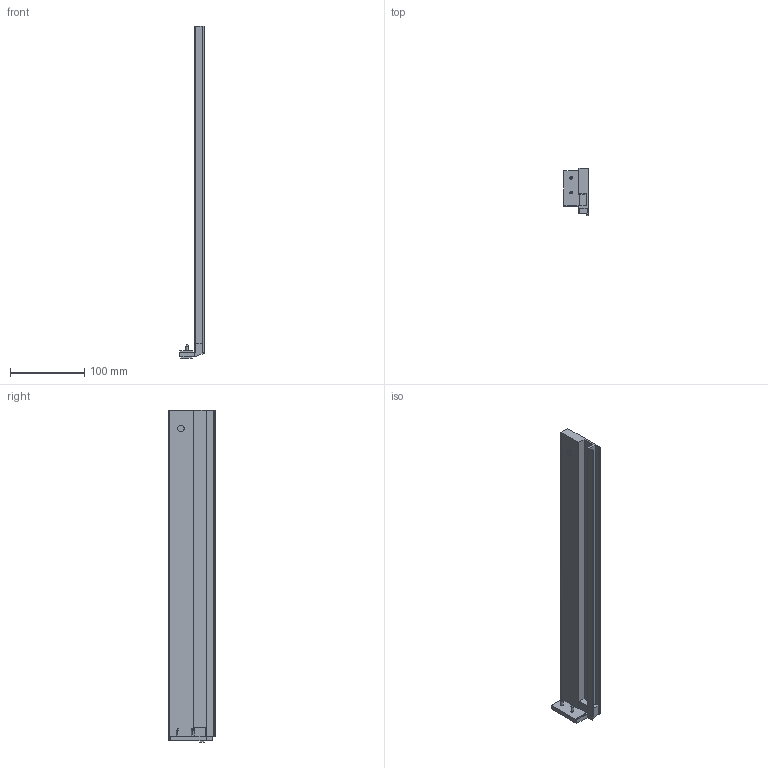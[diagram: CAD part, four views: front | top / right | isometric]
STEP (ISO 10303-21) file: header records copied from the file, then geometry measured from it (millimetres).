
FILE_DESCRIPTION (( 'STEP AP214' ), '1' );
FILE_NAME ('Vionaro_Alu-Zarge_H63_V1_NL450_RE.STEP', '2014-08-22T09:39:15', ( '' ), ( '' ), 'SwSTEP 2.0', 'SolidWorks 2013', '' );
FILE_SCHEMA (( 'AUTOMOTIVE_DESIGN' ));
Length unit declared in the file: millimetre
Products named in the file (1): Vionaro_Alu-Zarge_H63_V1_NL450_RE
Bounding box: 33 x 63 x 447.9 mm (x, y, z)
Volume: 252981 mm3; surface area: 87822.6 mm2
Topology: 1 solids, 1 shells, 71 faces, 185 edges, 121 vertices
Faces by surface type: plane 59, cylinder 8, cone 4
Entity records: 2178 total; most frequent: CARTESIAN_POINT 378, ORIENTED_EDGE 370, DIRECTION 350, EDGE_CURVE 185, LINE 164, VECTOR 164, VERTEX_POINT 121, AXIS2_PLACEMENT_3D 93
